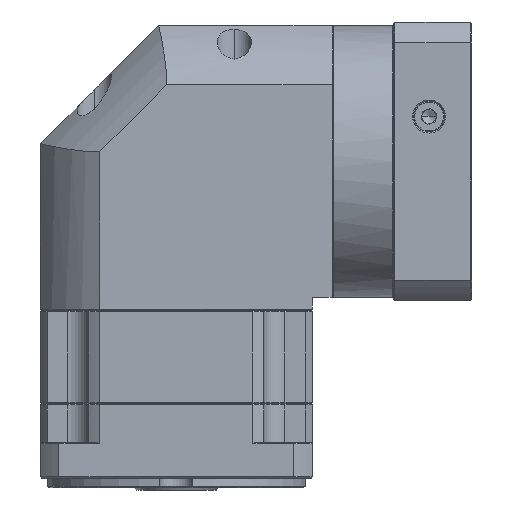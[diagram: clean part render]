
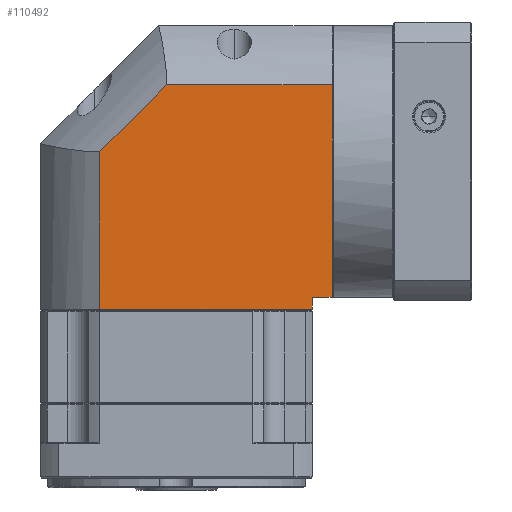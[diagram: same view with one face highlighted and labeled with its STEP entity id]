
A CAD part, front view. The second image highlights one B-rep face of the part: STEP entity #110492.
In plain terms, the highlighted planar face has unit normal (0, -1, 0).
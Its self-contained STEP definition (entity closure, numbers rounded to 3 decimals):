
#4999 = EDGE_LOOP ( 'NONE', ( #86934, #132100, #26152, #34481, #106257, #106641, #88849 ) ) ;
#8986 = DIRECTION ( 'NONE',  ( 0., 0., 1. ) ) ;
#11125 = CARTESIAN_POINT ( 'NONE',  ( 44.154, 12.334, 48.016 ) ) ;
#11836 = LINE ( 'NONE', #49654, #45320 ) ;
#16376 = CARTESIAN_POINT ( 'NONE',  ( 15.816, 12.334, -46.883 ) ) ;
#17316 = VECTOR ( 'NONE', #42216, 1000. ) ;
#17751 = VERTEX_POINT ( 'NONE', #36099 ) ;
#23745 = VERTEX_POINT ( 'NONE', #16376 ) ;
#26152 = ORIENTED_EDGE ( 'NONE', *, *, #40066, .F. ) ;
#27500 = DIRECTION ( 'NONE',  ( 0., 1., 0. ) ) ;
#30442 = DIRECTION ( 'NONE',  ( 1., 0., 0. ) ) ;
#31491 = EDGE_CURVE ( 'NONE', #17751, #23745, #36544, .T. ) ;
#32840 = VERTEX_POINT ( 'NONE', #40239 ) ;
#34481 = ORIENTED_EDGE ( 'NONE', *, *, #97237, .F. ) ;
#36099 = CARTESIAN_POINT ( 'NONE',  ( 105.715, 12.334, -46.883 ) ) ;
#36544 = LINE ( 'NONE', #54138, #73414 ) ;
#38968 = VECTOR ( 'NONE', #71450, 1000. ) ;
#40066 = EDGE_CURVE ( 'NONE', #32840, #86355, #73231, .T. ) ;
#40239 = CARTESIAN_POINT ( 'NONE',  ( 114.115, 12.334, 48.016 ) ) ;
#42216 = DIRECTION ( 'NONE',  ( 0., 0., -1. ) ) ;
#42470 = AXIS2_PLACEMENT_3D ( 'NONE', #88630, #27500, #99746 ) ;
#45320 = VECTOR ( 'NONE', #30442, 1000. ) ;
#49256 = CARTESIAN_POINT ( 'NONE',  ( 114.115, 12.334, -41.883 ) ) ;
#49654 = CARTESIAN_POINT ( 'NONE',  ( -9.285, 12.334, 48.016 ) ) ;
#49755 = VECTOR ( 'NONE', #8986, 1000. ) ;
#50632 = EDGE_CURVE ( 'NONE', #54067, #94989, #119008, .T. ) ;
#52205 = DIRECTION ( 'NONE',  ( 0.707, 0., 0.707 ) ) ;
#54067 = VERTEX_POINT ( 'NONE', #130184 ) ;
#54138 = CARTESIAN_POINT ( 'NONE',  ( -9.285, 12.334, -46.883 ) ) ;
#56671 = VERTEX_POINT ( 'NONE', #58425 ) ;
#58425 = CARTESIAN_POINT ( 'NONE',  ( 105.715, 12.334, -41.883 ) ) ;
#61711 = VECTOR ( 'NONE', #83641, 1000. ) ;
#61921 = CARTESIAN_POINT ( 'NONE',  ( 114.115, 12.334, -53.383 ) ) ;
#62555 = FACE_OUTER_BOUND ( 'NONE', #4999, .T. ) ;
#64409 = DIRECTION ( 'NONE',  ( -1., 0., 0. ) ) ;
#71450 = DIRECTION ( 'NONE',  ( 0., 0., -1. ) ) ;
#73231 = LINE ( 'NONE', #61921, #17316 ) ;
#73414 = VECTOR ( 'NONE', #64409, 1000. ) ;
#76890 = LINE ( 'NONE', #90194, #49755 ) ;
#82180 = LINE ( 'NONE', #122255, #38968 ) ;
#83641 = DIRECTION ( 'NONE',  ( -1., 0., 0. ) ) ;
#86355 = VERTEX_POINT ( 'NONE', #49256 ) ;
#86934 = ORIENTED_EDGE ( 'NONE', *, *, #118186, .F. ) ;
#88630 = CARTESIAN_POINT ( 'NONE',  ( -9.285, 12.334, -53.383 ) ) ;
#88849 = ORIENTED_EDGE ( 'NONE', *, *, #31491, .F. ) ;
#90194 = CARTESIAN_POINT ( 'NONE',  ( 15.816, 12.334, -53.383 ) ) ;
#92477 = EDGE_CURVE ( 'NONE', #23745, #54067, #76890, .T. ) ;
#94989 = VERTEX_POINT ( 'NONE', #11125 ) ;
#97237 = EDGE_CURVE ( 'NONE', #94989, #32840, #11836, .T. ) ;
#99746 = DIRECTION ( 'NONE',  ( 1., 0., 0. ) ) ;
#106257 = ORIENTED_EDGE ( 'NONE', *, *, #50632, .F. ) ;
#106641 = ORIENTED_EDGE ( 'NONE', *, *, #92477, .F. ) ;
#110492 = ADVANCED_FACE ( 'NONE', ( #62555 ), #129152, .F. ) ;
#114365 = LINE ( 'NONE', #116080, #61711 ) ;
#116080 = CARTESIAN_POINT ( 'NONE',  ( -9.285, 12.334, -41.883 ) ) ;
#117573 = EDGE_CURVE ( 'NONE', #86355, #56671, #114365, .T. ) ;
#118186 = EDGE_CURVE ( 'NONE', #56671, #17751, #82180, .T. ) ;
#119008 = LINE ( 'NONE', #124825, #131832 ) ;
#122255 = CARTESIAN_POINT ( 'NONE',  ( 105.715, 12.334, -53.383 ) ) ;
#124825 = CARTESIAN_POINT ( 'NONE',  ( 15.816, 12.334, 19.678 ) ) ;
#129152 = PLANE ( 'NONE',  #42470 ) ;
#130184 = CARTESIAN_POINT ( 'NONE',  ( 15.816, 12.334, 19.678 ) ) ;
#131832 = VECTOR ( 'NONE', #52205, 1000. ) ;
#132100 = ORIENTED_EDGE ( 'NONE', *, *, #117573, .F. ) ;
